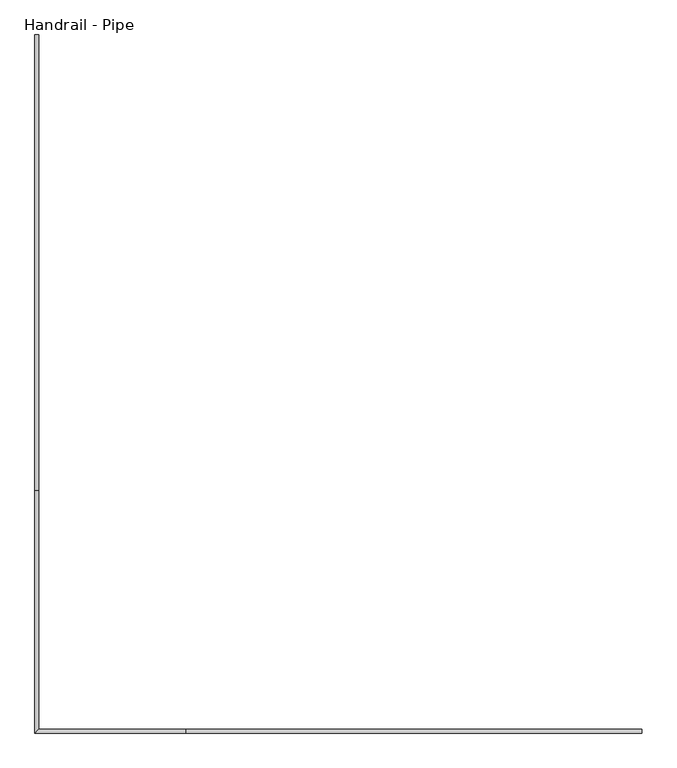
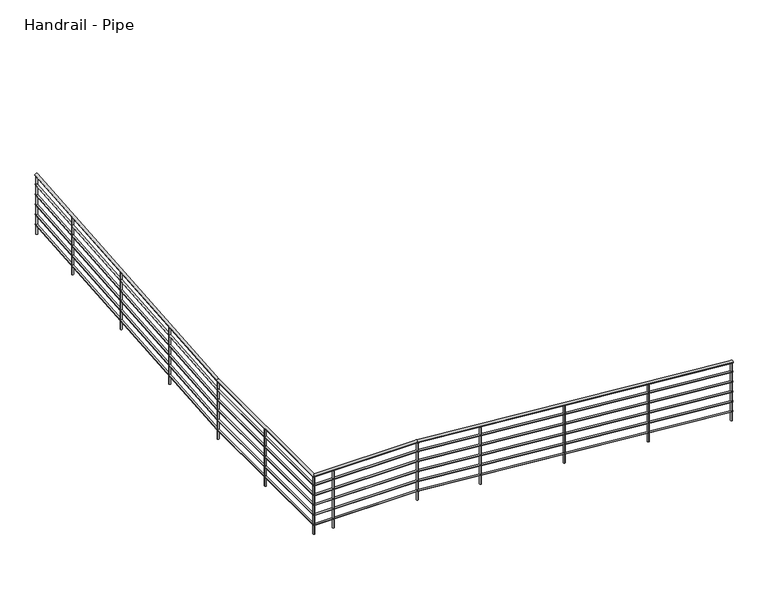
"""IFC4 building model written with IfcOpenShell, lengths in millimetres: railing geometry, Handrail - Pipe."""

from ifc_helpers import new_model, si_unit, point, frame, frame_2d, origin, place, context, project, spatial, circle_curve, ellipse_curve, trimmed, segment, composite_curve, outline, extrude, source, transform, mapped, element, save
from ifc_brep_helpers import plane_surface, cylinder_surface, advanced_brep


def handrail_pipe_77dd8e58(model_context):
    return source(origin(), model_context, "Body", "SolidModel", [
        advanced_brep(
        [(17900.9421922, -13890.6010164, 133.2839686), (17900.9421922, -13852.5010164, 133.2839686), (13328.1498155, -13890.6010164, 514.35), (13328.1498155, -13852.5010164, 514.35), (11811.2921922, -13890.6010164, 514.35), (11849.3921922, -13852.5010164, 514.35), (11811.2921922, -11462.6964124, 514.35), (11849.3921922, -11462.6964124, 514.35), (11811.2921922, -6891.4887891, 895.2839686), (11849.3921922, -6891.4887891, 895.2839686)],
        [
            (0, 1, ellipse_curve(frame((17900.9421922, -13871.5510164, 133.2839686), z_axis=(1.0, 0.0, 0.0), x_axis=(0.0, 0.0, -0.9999999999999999)), 19.1160314, 19.05)),
            (1, 0, ellipse_curve(frame((17900.9421922, -13871.5510164, 133.2839686), z_axis=(1.0, 0.0, 0.0), x_axis=(0.0, 0.0, -0.9999999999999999)), 19.1160314, 19.05)),
            (0, 2),
            (2, 3, ellipse_curve(frame((13328.1498155, -13871.5510164, 514.35), z_axis=(0.9991360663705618, 0.0, -0.0415586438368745), x_axis=(-0.041558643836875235, 0.0, -0.9991360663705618)), 19.0664722, 19.05)),
            (3, 1),
            (3, 2, ellipse_curve(frame((13328.1498155, -13871.5510164, 514.35), z_axis=(0.9991360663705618, 0.0, -0.0415586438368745), x_axis=(-0.041558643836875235, 0.0, -0.9991360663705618)), 19.0664722, 19.05)),
            (2, 4),
            (4, 5, ellipse_curve(frame((11830.3421922, -13871.5510164, 514.35), z_axis=(0.7071067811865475, -0.7071067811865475, 0.0), x_axis=(0.7071067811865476, 0.7071067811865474, 0.0)), 26.9407684, 19.05)),
            (5, 3),
            (5, 4, ellipse_curve(frame((11830.3421922, -13871.5510164, 514.35), z_axis=(0.7071067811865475, -0.7071067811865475, 0.0), x_axis=(0.7071067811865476, 0.7071067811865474, 0.0)), 26.9407684, 19.05)),
            (4, 6),
            (6, 7, ellipse_curve(frame((11830.3421922, -11462.6964124, 514.35), z_axis=(0.0, -0.9991360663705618, -0.041558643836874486), x_axis=(0.0, -0.04155864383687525, 0.9991360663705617)), 19.0664722, 19.05)),
            (7, 5),
            (7, 6, ellipse_curve(frame((11830.3421922, -11462.6964124, 514.35), z_axis=(0.0, -0.9991360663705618, -0.041558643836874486), x_axis=(0.0, -0.04155864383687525, 0.9991360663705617)), 19.0664722, 19.05)),
            (8, 9, ellipse_curve(frame((11830.3421922, -6891.4887891, 895.2839686), z_axis=(0.0, 1.0, 0.0), x_axis=(0.0, 0.0, -1.0)), 19.1160314, 19.05)),
            (9, 8, ellipse_curve(frame((11830.3421922, -6891.4887891, 895.2839686), z_axis=(0.0, 1.0, 0.0), x_axis=(0.0, 0.0, -1.0)), 19.1160314, 19.05)),
            (6, 8),
            (9, 7),
        ],
        [
            plane_surface(frame((17900.9421922, -13871.5510164, 152.4), z_axis=(1.0, 0.0, 0.0), x_axis=(0.0, -1.0, 0.0))),
            cylinder_surface(frame((17899.3601758, -13871.5510164, 133.4158033), z_axis=(0.9965457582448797, 0.0, -0.08304547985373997), x_axis=(0.0, 1.0, 0.0)), 19.05),
            cylinder_surface(frame((13328.9421922, -13871.5510164, 514.35), z_axis=(1.0, 0.0, 0.0), x_axis=(0.0, 1.0, 0.0)), 19.05),
            cylinder_surface(frame((11830.3421922, -13871.5510164, 514.35), z_axis=(0.0, -1.0, 0.0), x_axis=(1.0, 0.0, 0.0)), 19.05),
            plane_surface(frame((11830.3421922, -6891.4887891, 914.4), z_axis=(0.0, 1.0, 0.0), x_axis=(0.0, 0.0, 1.0))),
            cylinder_surface(frame((11830.3421922, -11461.9067727, 514.4158033), z_axis=(0.0, -0.9965457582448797, -0.08304547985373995), x_axis=(1.0, 0.0, 0.0)), 19.05),
        ],
        [
            (0, [[1, 2]]),
            (1, [[-1, 3, 4, 5]]),
            (1, [[-2, -5, 6, -3]]),
            (2, [[-4, 7, 8, 9]]),
            (2, [[-6, -9, 10, -7]]),
            (3, [[-8, 11, 12, 13]]),
            (3, [[-10, -13, 14, -11]]),
            (4, [[15, 16]]),
            (5, [[-12, 17, -16, 18]]),
            (5, [[-14, -18, -15, -17]]),
        ],
    ),
        advanced_brep(
        [(17900.9421922, -13884.2510164, -12.7440209), (17900.9421922, -13858.8510164, -12.7440209), (13328.413941, -13884.2510164, 368.3), (13328.413941, -13858.8510164, 368.3), (11817.6421922, -13884.2510164, 368.3), (11843.0421922, -13858.8510164, 368.3), (11817.6421922, -11462.9605379, 368.3), (11843.0421922, -11462.9605379, 368.3), (11817.6421922, -6891.4887891, 749.2559791), (11843.0421922, -6891.4887891, 749.2559791)],
        [
            (0, 1, ellipse_curve(frame((17900.9421922, -13871.5510164, -12.7440209), z_axis=(1.0, 0.0, 0.0), x_axis=(0.0, 0.0, -0.9999999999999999)), 12.7440209, 12.7)),
            (1, 0, ellipse_curve(frame((17900.9421922, -13871.5510164, -12.7440209), z_axis=(1.0, 0.0, 0.0), x_axis=(0.0, 0.0, -0.9999999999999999)), 12.7440209, 12.7)),
            (0, 2),
            (2, 3, ellipse_curve(frame((13328.413941, -13871.5510164, 368.3), z_axis=(0.9991360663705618, 0.0, -0.0415586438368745), x_axis=(-0.041558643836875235, 0.0, -0.9991360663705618)), 12.7109814, 12.7)),
            (3, 1),
            (3, 2, ellipse_curve(frame((13328.413941, -13871.5510164, 368.3), z_axis=(0.9991360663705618, 0.0, -0.0415586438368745), x_axis=(-0.041558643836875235, 0.0, -0.9991360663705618)), 12.7109814, 12.7)),
            (2, 4),
            (4, 5, ellipse_curve(frame((11830.3421922, -13871.5510164, 368.3), z_axis=(0.7071067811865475, -0.7071067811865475, 0.0), x_axis=(0.7071067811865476, 0.7071067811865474, 0.0)), 17.9605122, 12.7)),
            (5, 3),
            (5, 4, ellipse_curve(frame((11830.3421922, -13871.5510164, 368.3), z_axis=(0.7071067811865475, -0.7071067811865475, 0.0), x_axis=(0.7071067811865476, 0.7071067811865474, 0.0)), 17.9605122, 12.7)),
            (4, 6),
            (6, 7, ellipse_curve(frame((11830.3421922, -11462.9605379, 368.3), z_axis=(0.0, -0.9991360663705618, -0.041558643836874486), x_axis=(0.0, -0.04155864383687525, 0.9991360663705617)), 12.7109814, 12.7)),
            (7, 5),
            (7, 6, ellipse_curve(frame((11830.3421922, -11462.9605379, 368.3), z_axis=(0.0, -0.9991360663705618, -0.041558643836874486), x_axis=(0.0, -0.04155864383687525, 0.9991360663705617)), 12.7109814, 12.7)),
            (8, 9, ellipse_curve(frame((11830.3421922, -6891.4887891, 749.2559791), z_axis=(0.0, 1.0, 0.0), x_axis=(0.0, 0.0, -1.0)), 12.7440209, 12.7)),
            (9, 8, ellipse_curve(frame((11830.3421922, -6891.4887891, 749.2559791), z_axis=(0.0, 1.0, 0.0), x_axis=(0.0, 0.0, -1.0)), 12.7440209, 12.7)),
            (6, 8),
            (9, 7),
        ],
        [
            plane_surface(frame((17900.9421922, -13871.5510164, 0.0), z_axis=(1.0, 0.0, 0.0), x_axis=(0.0, -1.0, 0.0))),
            cylinder_surface(frame((17899.8875146, -13871.5510164, -12.6561311), z_axis=(0.9965457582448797, 0.0, -0.08304547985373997), x_axis=(0.0, 1.0, 0.0)), 12.7),
            cylinder_surface(frame((13328.9421922, -13871.5510164, 368.3), z_axis=(1.0, 0.0, 0.0), x_axis=(0.0, 1.0, 0.0)), 12.7),
            cylinder_surface(frame((11830.3421922, -13871.5510164, 368.3), z_axis=(0.0, -1.0, 0.0), x_axis=(1.0, 0.0, 0.0)), 12.7),
            plane_surface(frame((11830.3421922, -6891.4887891, 762.0), z_axis=(0.0, 1.0, 0.0), x_axis=(0.0, 0.0, 1.0))),
            cylinder_surface(frame((11830.3421922, -11462.4341115, 368.3438689), z_axis=(0.0, -0.9965457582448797, -0.08304547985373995), x_axis=(1.0, 0.0, 0.0)), 12.7),
        ],
        [
            (0, [[1, 2]]),
            (1, [[-1, 3, 4, 5]]),
            (1, [[-2, -5, 6, -3]]),
            (2, [[-4, 7, 8, 9]]),
            (2, [[-6, -9, 10, -7]]),
            (3, [[-8, 11, 12, 13]]),
            (3, [[-10, -13, 14, -11]]),
            (4, [[15, 16]]),
            (5, [[-12, 17, -16, 18]]),
            (5, [[-14, -18, -15, -17]]),
        ],
    ),
        advanced_brep(
        [(17900.9421922, -13884.2510164, -165.1440209), (17900.9421922, -13858.8510164, -165.1440209), (13328.413941, -13884.2510164, 215.9), (13328.413941, -13858.8510164, 215.9), (11817.6421922, -13884.2510164, 215.9), (11843.0421922, -13858.8510164, 215.9), (11817.6421922, -11462.9605379, 215.9), (11843.0421922, -11462.9605379, 215.9), (11817.6421922, -6891.4887891, 596.8559791), (11843.0421922, -6891.4887891, 596.8559791)],
        [
            (0, 1, ellipse_curve(frame((17900.9421922, -13871.5510164, -165.1440209), z_axis=(1.0, 0.0, 0.0), x_axis=(0.0, 0.0, -0.9999999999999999)), 12.7440209, 12.7)),
            (1, 0, ellipse_curve(frame((17900.9421922, -13871.5510164, -165.1440209), z_axis=(1.0, 0.0, 0.0), x_axis=(0.0, 0.0, -0.9999999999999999)), 12.7440209, 12.7)),
            (0, 2),
            (2, 3, ellipse_curve(frame((13328.413941, -13871.5510164, 215.9), z_axis=(0.9991360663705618, 0.0, -0.0415586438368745), x_axis=(-0.041558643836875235, 0.0, -0.9991360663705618)), 12.7109814, 12.7)),
            (3, 1),
            (3, 2, ellipse_curve(frame((13328.413941, -13871.5510164, 215.9), z_axis=(0.9991360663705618, 0.0, -0.0415586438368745), x_axis=(-0.041558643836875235, 0.0, -0.9991360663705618)), 12.7109814, 12.7)),
            (2, 4),
            (4, 5, ellipse_curve(frame((11830.3421922, -13871.5510164, 215.9), z_axis=(0.7071067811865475, -0.7071067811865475, 0.0), x_axis=(0.7071067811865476, 0.7071067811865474, 0.0)), 17.9605122, 12.7)),
            (5, 3),
            (5, 4, ellipse_curve(frame((11830.3421922, -13871.5510164, 215.9), z_axis=(0.7071067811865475, -0.7071067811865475, 0.0), x_axis=(0.7071067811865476, 0.7071067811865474, 0.0)), 17.9605122, 12.7)),
            (4, 6),
            (6, 7, ellipse_curve(frame((11830.3421922, -11462.9605379, 215.9), z_axis=(0.0, -0.9991360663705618, -0.041558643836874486), x_axis=(0.0, -0.04155864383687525, 0.9991360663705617)), 12.7109814, 12.7)),
            (7, 5),
            (7, 6, ellipse_curve(frame((11830.3421922, -11462.9605379, 215.9), z_axis=(0.0, -0.9991360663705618, -0.041558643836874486), x_axis=(0.0, -0.04155864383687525, 0.9991360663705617)), 12.7109814, 12.7)),
            (8, 9, ellipse_curve(frame((11830.3421922, -6891.4887891, 596.8559791), z_axis=(0.0, 1.0, 0.0), x_axis=(0.0, 0.0, -1.0)), 12.7440209, 12.7)),
            (9, 8, ellipse_curve(frame((11830.3421922, -6891.4887891, 596.8559791), z_axis=(0.0, 1.0, 0.0), x_axis=(0.0, 0.0, -1.0)), 12.7440209, 12.7)),
            (6, 8),
            (9, 7),
        ],
        [
            plane_surface(frame((17900.9421922, -13871.5510164, -152.4), z_axis=(1.0, 0.0, 0.0), x_axis=(0.0, -1.0, 0.0))),
            cylinder_surface(frame((17899.8875146, -13871.5510164, -165.0561311), z_axis=(0.9965457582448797, 0.0, -0.08304547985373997), x_axis=(0.0, 1.0, 0.0)), 12.7),
            cylinder_surface(frame((13328.9421922, -13871.5510164, 215.9), z_axis=(1.0, 0.0, 0.0), x_axis=(0.0, 1.0, 0.0)), 12.7),
            cylinder_surface(frame((11830.3421922, -13871.5510164, 215.9), z_axis=(0.0, -1.0, 0.0), x_axis=(1.0, 0.0, 0.0)), 12.7),
            plane_surface(frame((11830.3421922, -6891.4887891, 609.6), z_axis=(0.0, 1.0, 0.0), x_axis=(0.0, 0.0, 1.0))),
            cylinder_surface(frame((11830.3421922, -11462.4341115, 215.9438689), z_axis=(0.0, -0.9965457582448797, -0.08304547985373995), x_axis=(1.0, 0.0, 0.0)), 12.7),
        ],
        [
            (0, [[1, 2]]),
            (1, [[-1, 3, 4, 5]]),
            (1, [[-2, -5, 6, -3]]),
            (2, [[-4, 7, 8, 9]]),
            (2, [[-6, -9, 10, -7]]),
            (3, [[-8, 11, 12, 13]]),
            (3, [[-10, -13, 14, -11]]),
            (4, [[15, 16]]),
            (5, [[-12, 17, -16, 18]]),
            (5, [[-14, -18, -15, -17]]),
        ],
    ),
        advanced_brep(
        [(17900.9421922, -13884.2510164, -317.5440209), (17900.9421922, -13858.8510164, -317.5440209), (13328.413941, -13884.2510164, 63.5), (13328.413941, -13858.8510164, 63.5), (11817.6421922, -13884.2510164, 63.5), (11843.0421922, -13858.8510164, 63.5), (11817.6421922, -11462.9605379, 63.5), (11843.0421922, -11462.9605379, 63.5), (11817.6421922, -6891.4887891, 444.4559791), (11843.0421922, -6891.4887891, 444.4559791)],
        [
            (0, 1, ellipse_curve(frame((17900.9421922, -13871.5510164, -317.5440209), z_axis=(1.0, 0.0, 0.0), x_axis=(0.0, 0.0, -0.9999999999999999)), 12.7440209, 12.7)),
            (1, 0, ellipse_curve(frame((17900.9421922, -13871.5510164, -317.5440209), z_axis=(1.0, 0.0, 0.0), x_axis=(0.0, 0.0, -0.9999999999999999)), 12.7440209, 12.7)),
            (0, 2),
            (2, 3, ellipse_curve(frame((13328.413941, -13871.5510164, 63.5), z_axis=(0.9991360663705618, 0.0, -0.0415586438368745), x_axis=(-0.041558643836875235, 0.0, -0.9991360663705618)), 12.7109814, 12.7)),
            (3, 1),
            (3, 2, ellipse_curve(frame((13328.413941, -13871.5510164, 63.5), z_axis=(0.9991360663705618, 0.0, -0.0415586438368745), x_axis=(-0.041558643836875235, 0.0, -0.9991360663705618)), 12.7109814, 12.7)),
            (2, 4),
            (4, 5, ellipse_curve(frame((11830.3421922, -13871.5510164, 63.5), z_axis=(0.7071067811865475, -0.7071067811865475, 0.0), x_axis=(0.7071067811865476, 0.7071067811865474, 0.0)), 17.9605122, 12.7)),
            (5, 3),
            (5, 4, ellipse_curve(frame((11830.3421922, -13871.5510164, 63.5), z_axis=(0.7071067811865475, -0.7071067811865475, 0.0), x_axis=(0.7071067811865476, 0.7071067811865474, 0.0)), 17.9605122, 12.7)),
            (4, 6),
            (6, 7, ellipse_curve(frame((11830.3421922, -11462.9605379, 63.5), z_axis=(0.0, -0.9991360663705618, -0.0415586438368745), x_axis=(0.0, -0.04155864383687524, 0.9991360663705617)), 12.7109814, 12.7)),
            (7, 5),
            (7, 6, ellipse_curve(frame((11830.3421922, -11462.9605379, 63.5), z_axis=(0.0, -0.9991360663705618, -0.0415586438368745), x_axis=(0.0, -0.04155864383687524, 0.9991360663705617)), 12.7109814, 12.7)),
            (8, 9, ellipse_curve(frame((11830.3421922, -6891.4887891, 444.4559791), z_axis=(0.0, 1.0, 0.0), x_axis=(0.0, 0.0, -0.9999999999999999)), 12.7440209, 12.7)),
            (9, 8, ellipse_curve(frame((11830.3421922, -6891.4887891, 444.4559791), z_axis=(0.0, 1.0, 0.0), x_axis=(0.0, 0.0, -0.9999999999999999)), 12.7440209, 12.7)),
            (6, 8),
            (9, 7),
        ],
        [
            plane_surface(frame((17900.9421922, -13871.5510164, -304.8), z_axis=(1.0, 0.0, 0.0), x_axis=(0.0, -1.0, 0.0))),
            cylinder_surface(frame((17899.8875146, -13871.5510164, -317.4561311), z_axis=(0.9965457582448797, 0.0, -0.08304547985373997), x_axis=(0.0, 1.0, 0.0)), 12.7),
            cylinder_surface(frame((13328.9421922, -13871.5510164, 63.5), z_axis=(1.0, 0.0, 0.0), x_axis=(0.0, 1.0, 0.0)), 12.7),
            cylinder_surface(frame((11830.3421922, -13871.5510164, 63.5), z_axis=(0.0, -1.0, 0.0), x_axis=(1.0, 0.0, 0.0)), 12.7),
            plane_surface(frame((11830.3421922, -6891.4887891, 457.2), z_axis=(0.0, 1.0, 0.0), x_axis=(0.0, 0.0, 1.0))),
            cylinder_surface(frame((11830.3421922, -11462.4341115, 63.5438689), z_axis=(0.0, -0.9965457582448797, -0.08304547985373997), x_axis=(1.0, 0.0, 0.0)), 12.7),
        ],
        [
            (0, [[1, 2]]),
            (1, [[-1, 3, 4, 5]]),
            (1, [[-2, -5, 6, -3]]),
            (2, [[-4, 7, 8, 9]]),
            (2, [[-6, -9, 10, -7]]),
            (3, [[-8, 11, 12, 13]]),
            (3, [[-10, -13, 14, -11]]),
            (4, [[15, 16]]),
            (5, [[-12, 17, -16, 18]]),
            (5, [[-14, -18, -15, -17]]),
        ],
    ),
        advanced_brep(
        [(17900.9421922, -13884.2510164, -469.9440209), (17900.9421922, -13858.8510164, -469.9440209), (13328.413941, -13884.2510164, -88.9), (13328.413941, -13858.8510164, -88.9), (11817.6421922, -13884.2510164, -88.9), (11843.0421922, -13858.8510164, -88.9), (11817.6421922, -11462.9605379, -88.9), (11843.0421922, -11462.9605379, -88.9), (11817.6421922, -6891.4887891, 292.0559791), (11843.0421922, -6891.4887891, 292.0559791)],
        [
            (0, 1, ellipse_curve(frame((17900.9421922, -13871.5510164, -469.9440209), z_axis=(1.0, 0.0, 0.0), x_axis=(0.0, 0.0, -0.9999999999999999)), 12.7440209, 12.7)),
            (1, 0, ellipse_curve(frame((17900.9421922, -13871.5510164, -469.9440209), z_axis=(1.0, 0.0, 0.0), x_axis=(0.0, 0.0, -0.9999999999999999)), 12.7440209, 12.7)),
            (0, 2),
            (2, 3, ellipse_curve(frame((13328.413941, -13871.5510164, -88.9), z_axis=(0.9991360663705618, 0.0, -0.0415586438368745), x_axis=(-0.041558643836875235, 0.0, -0.9991360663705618)), 12.7109814, 12.7)),
            (3, 1),
            (3, 2, ellipse_curve(frame((13328.413941, -13871.5510164, -88.9), z_axis=(0.9991360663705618, 0.0, -0.0415586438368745), x_axis=(-0.041558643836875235, 0.0, -0.9991360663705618)), 12.7109814, 12.7)),
            (2, 4),
            (4, 5, ellipse_curve(frame((11830.3421922, -13871.5510164, -88.9), z_axis=(0.7071067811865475, -0.7071067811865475, 0.0), x_axis=(0.7071067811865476, 0.7071067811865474, 0.0)), 17.9605122, 12.7)),
            (5, 3),
            (5, 4, ellipse_curve(frame((11830.3421922, -13871.5510164, -88.9), z_axis=(0.7071067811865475, -0.7071067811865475, 0.0), x_axis=(0.7071067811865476, 0.7071067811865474, 0.0)), 17.9605122, 12.7)),
            (4, 6),
            (6, 7, ellipse_curve(frame((11830.3421922, -11462.9605379, -88.9), z_axis=(0.0, -0.9991360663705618, -0.0415586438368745), x_axis=(0.0, -0.04155864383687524, 0.9991360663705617)), 12.7109814, 12.7)),
            (7, 5),
            (7, 6, ellipse_curve(frame((11830.3421922, -11462.9605379, -88.9), z_axis=(0.0, -0.9991360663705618, -0.0415586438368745), x_axis=(0.0, -0.04155864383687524, 0.9991360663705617)), 12.7109814, 12.7)),
            (8, 9, ellipse_curve(frame((11830.3421922, -6891.4887891, 292.0559791), z_axis=(0.0, 1.0, 0.0), x_axis=(0.0, 0.0, -0.9999999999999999)), 12.7440209, 12.7)),
            (9, 8, ellipse_curve(frame((11830.3421922, -6891.4887891, 292.0559791), z_axis=(0.0, 1.0, 0.0), x_axis=(0.0, 0.0, -0.9999999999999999)), 12.7440209, 12.7)),
            (6, 8),
            (9, 7),
        ],
        [
            plane_surface(frame((17900.9421922, -13871.5510164, -457.2), z_axis=(1.0, 0.0, 0.0), x_axis=(0.0, -1.0, 0.0))),
            cylinder_surface(frame((17899.8875146, -13871.5510164, -469.8561311), z_axis=(0.9965457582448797, 0.0, -0.08304547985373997), x_axis=(0.0, 1.0, 0.0)), 12.7),
            cylinder_surface(frame((13328.9421922, -13871.5510164, -88.9), z_axis=(1.0, 0.0, 0.0), x_axis=(0.0, 1.0, 0.0)), 12.7),
            cylinder_surface(frame((11830.3421922, -13871.5510164, -88.9), z_axis=(0.0, -1.0, 0.0), x_axis=(1.0, 0.0, 0.0)), 12.7),
            plane_surface(frame((11830.3421922, -6891.4887891, 304.8), z_axis=(0.0, 1.0, 0.0), x_axis=(0.0, 0.0, 1.0))),
            cylinder_surface(frame((11830.3421922, -11462.4341115, -88.8561311), z_axis=(0.0, -0.9965457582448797, -0.08304547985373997), x_axis=(1.0, 0.0, 0.0)), 12.7),
        ],
        [
            (0, [[1, 2]]),
            (1, [[-1, 3, 4, 5]]),
            (1, [[-2, -5, 6, -3]]),
            (2, [[-4, 7, 8, 9]]),
            (2, [[-6, -9, 10, -7]]),
            (3, [[-8, 11, 12, 13]]),
            (3, [[-10, -13, 14, -11]]),
            (4, [[15, 16]]),
            (5, [[-12, 17, -16, 18]]),
            (5, [[-14, -18, -15, -17]]),
        ],
    ),
        advanced_brep(
        [(17900.9421922, -13884.2510164, -622.3440209), (17900.9421922, -13858.8510164, -622.3440209), (13328.413941, -13884.2510164, -241.3), (13328.413941, -13858.8510164, -241.3), (11817.6421922, -13884.2510164, -241.3), (11843.0421922, -13858.8510164, -241.3), (11817.6421922, -11462.9605379, -241.3), (11843.0421922, -11462.9605379, -241.3), (11817.6421922, -6891.4887891, 139.6559791), (11843.0421922, -6891.4887891, 139.6559791)],
        [
            (0, 1, ellipse_curve(frame((17900.9421922, -13871.5510164, -622.3440209), z_axis=(1.0, 0.0, 0.0), x_axis=(0.0, 0.0, -0.9999999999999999)), 12.7440209, 12.7)),
            (1, 0, ellipse_curve(frame((17900.9421922, -13871.5510164, -622.3440209), z_axis=(1.0, 0.0, 0.0), x_axis=(0.0, 0.0, -0.9999999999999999)), 12.7440209, 12.7)),
            (0, 2),
            (2, 3, ellipse_curve(frame((13328.413941, -13871.5510164, -241.3), z_axis=(0.9991360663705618, 0.0, -0.0415586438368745), x_axis=(-0.041558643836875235, 0.0, -0.9991360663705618)), 12.7109814, 12.7)),
            (3, 1),
            (3, 2, ellipse_curve(frame((13328.413941, -13871.5510164, -241.3), z_axis=(0.9991360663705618, 0.0, -0.0415586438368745), x_axis=(-0.041558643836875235, 0.0, -0.9991360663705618)), 12.7109814, 12.7)),
            (2, 4),
            (4, 5, ellipse_curve(frame((11830.3421922, -13871.5510164, -241.3), z_axis=(0.7071067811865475, -0.7071067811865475, 0.0), x_axis=(0.7071067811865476, 0.7071067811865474, 0.0)), 17.9605122, 12.7)),
            (5, 3),
            (5, 4, ellipse_curve(frame((11830.3421922, -13871.5510164, -241.3), z_axis=(0.7071067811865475, -0.7071067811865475, 0.0), x_axis=(0.7071067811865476, 0.7071067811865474, 0.0)), 17.9605122, 12.7)),
            (4, 6),
            (6, 7, ellipse_curve(frame((11830.3421922, -11462.9605379, -241.3), z_axis=(0.0, -0.9991360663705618, -0.0415586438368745), x_axis=(0.0, -0.04155864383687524, 0.9991360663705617)), 12.7109814, 12.7)),
            (7, 5),
            (7, 6, ellipse_curve(frame((11830.3421922, -11462.9605379, -241.3), z_axis=(0.0, -0.9991360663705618, -0.0415586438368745), x_axis=(0.0, -0.04155864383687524, 0.9991360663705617)), 12.7109814, 12.7)),
            (8, 9, ellipse_curve(frame((11830.3421922, -6891.4887891, 139.6559791), z_axis=(0.0, 1.0, 0.0), x_axis=(0.0, 0.0, -0.9999999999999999)), 12.7440209, 12.7)),
            (9, 8, ellipse_curve(frame((11830.3421922, -6891.4887891, 139.6559791), z_axis=(0.0, 1.0, 0.0), x_axis=(0.0, 0.0, -0.9999999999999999)), 12.7440209, 12.7)),
            (6, 8),
            (9, 7),
        ],
        [
            plane_surface(frame((17900.9421922, -13871.5510164, -609.6), z_axis=(1.0, 0.0, 0.0), x_axis=(0.0, -1.0, 0.0))),
            cylinder_surface(frame((17899.8875146, -13871.5510164, -622.2561311), z_axis=(0.9965457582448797, 0.0, -0.08304547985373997), x_axis=(0.0, 1.0, 0.0)), 12.7),
            cylinder_surface(frame((13328.9421922, -13871.5510164, -241.3), z_axis=(1.0, 0.0, 0.0), x_axis=(0.0, 1.0, 0.0)), 12.7),
            cylinder_surface(frame((11830.3421922, -13871.5510164, -241.3), z_axis=(0.0, -1.0, 0.0), x_axis=(1.0, 0.0, 0.0)), 12.7),
            plane_surface(frame((11830.3421922, -6891.4887891, 152.4), z_axis=(0.0, 1.0, 0.0), x_axis=(0.0, 0.0, 1.0))),
            cylinder_surface(frame((11830.3421922, -11462.4341115, -241.2561311), z_axis=(0.0, -0.9965457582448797, -0.08304547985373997), x_axis=(1.0, 0.0, 0.0)), 12.7),
        ],
        [
            (0, [[1, 2]]),
            (1, [[-1, 3, 4, 5]]),
            (1, [[-2, -5, 6, -3]]),
            (2, [[-4, 7, 8, 9]]),
            (2, [[-6, -9, 10, -7]]),
            (3, [[-8, 11, 12, 13]]),
            (3, [[-10, -13, 14, -11]]),
            (4, [[15, 16]]),
            (5, [[-12, 17, -16, 18]]),
            (5, [[-14, -18, -15, -17]]),
        ],
    ),
        advanced_brep(
        [(11843.0421922, -7805.8887891, 799.9679372), (11843.0421922, -7805.8887891, -76.2), (11817.6421922, -7805.8887891, -76.2), (11817.6421922, -7805.8887891, 799.9679372)],
        [
            (0, 1),
            (1, 2, ellipse_curve(frame((11830.3421922, -7805.8887891, -76.2), z_axis=(0.0, -0.08304547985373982, 0.9965457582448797), x_axis=(0.0, 0.9965457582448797, 0.08304547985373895)), 12.7440209, 12.7)),
            (2, 3),
            (3, 0, ellipse_curve(frame((11830.3421922, -7805.8887891, 799.9679372), z_axis=(0.0, 0.08304547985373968, -0.9965457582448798), x_axis=(0.0, 0.9965457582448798, 0.08304547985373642)), 12.7440209, 12.7)),
            (0, 3, ellipse_curve(frame((11830.3421922, -7805.8887891, 799.9679372), z_axis=(0.0, 0.08304547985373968, -0.9965457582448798), x_axis=(0.0, 0.9965457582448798, 0.08304547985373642)), 12.7440209, 12.7)),
            (2, 1, ellipse_curve(frame((11830.3421922, -7805.8887891, -76.2), z_axis=(0.0, -0.08304547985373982, 0.9965457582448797), x_axis=(0.0, 0.9965457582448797, 0.08304547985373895)), 12.7440209, 12.7)),
        ],
        [
            cylinder_surface(frame((11830.3421922, -7805.8887891, -304.8), z_axis=(0.0, 0.0, 1.0), x_axis=(-1.0, 0.0, 0.0)), 12.7),
            plane_surface(frame((11804.9421922, -7780.4887891, 802.0846039), z_axis=(0.0, -0.08304547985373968, 0.9965457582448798), x_axis=(1.0, 0.0, 0.0))),
            plane_surface(frame((11804.9421922, -7831.2887891, -78.3166667), z_axis=(0.0, 0.08304547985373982, -0.9965457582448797), x_axis=(1.0, 0.0, 0.0))),
        ],
        [
            (0, [[1, 2, 3, 4]]),
            (0, [[-1, 5, -3, 6]]),
            (1, [[-4, -5]]),
            (2, [[-2, -6]]),
        ],
    ),
        advanced_brep(
        [(11843.0421922, -9025.0887891, 698.3679372), (11843.0421922, -9025.0887891, -177.8), (11817.6421922, -9025.0887891, -177.8), (11817.6421922, -9025.0887891, 698.3679372)],
        [
            (0, 1),
            (1, 2, ellipse_curve(frame((11830.3421922, -9025.0887891, -177.8), z_axis=(0.0, -0.08304547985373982, 0.9965457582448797), x_axis=(0.0, 0.9965457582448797, 0.08304547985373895)), 12.7440209, 12.7)),
            (2, 3),
            (3, 0, ellipse_curve(frame((11830.3421922, -9025.0887891, 698.3679372), z_axis=(0.0, 0.08304547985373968, -0.9965457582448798), x_axis=(0.0, 0.9965457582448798, 0.08304547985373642)), 12.7440209, 12.7)),
            (0, 3, ellipse_curve(frame((11830.3421922, -9025.0887891, 698.3679372), z_axis=(0.0, 0.08304547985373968, -0.9965457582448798), x_axis=(0.0, 0.9965457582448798, 0.08304547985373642)), 12.7440209, 12.7)),
            (2, 1, ellipse_curve(frame((11830.3421922, -9025.0887891, -177.8), z_axis=(0.0, -0.08304547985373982, 0.9965457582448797), x_axis=(0.0, 0.9965457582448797, 0.08304547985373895)), 12.7440209, 12.7)),
        ],
        [
            cylinder_surface(frame((11830.3421922, -9025.0887891, -406.4), z_axis=(0.0, 0.0, 1.0), x_axis=(-1.0, 0.0, 0.0)), 12.7),
            plane_surface(frame((11804.9421922, -8999.6887891, 700.4846039), z_axis=(0.0, -0.08304547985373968, 0.9965457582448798), x_axis=(1.0, 0.0, 0.0))),
            plane_surface(frame((11804.9421922, -9050.4887891, -179.9166667), z_axis=(0.0, 0.08304547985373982, -0.9965457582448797), x_axis=(1.0, 0.0, 0.0))),
        ],
        [
            (0, [[1, 2, 3, 4]]),
            (0, [[-1, 5, -3, 6]]),
            (1, [[-4, -5]]),
            (2, [[-2, -6]]),
        ],
    ),
        advanced_brep(
        [(11843.0421922, -10244.2887891, 596.7679372), (11843.0421922, -10244.2887891, -279.4), (11817.6421922, -10244.2887891, -279.4), (11817.6421922, -10244.2887891, 596.7679372)],
        [
            (0, 1),
            (1, 2, ellipse_curve(frame((11830.3421922, -10244.2887891, -279.4), z_axis=(0.0, -0.08304547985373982, 0.9965457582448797), x_axis=(0.0, 0.9965457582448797, 0.08304547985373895)), 12.7440209, 12.7)),
            (2, 3),
            (3, 0, ellipse_curve(frame((11830.3421922, -10244.2887891, 596.7679372), z_axis=(0.0, 0.08304547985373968, -0.9965457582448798), x_axis=(0.0, 0.9965457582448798, 0.08304547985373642)), 12.7440209, 12.7)),
            (0, 3, ellipse_curve(frame((11830.3421922, -10244.2887891, 596.7679372), z_axis=(0.0, 0.08304547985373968, -0.9965457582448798), x_axis=(0.0, 0.9965457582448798, 0.08304547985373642)), 12.7440209, 12.7)),
            (2, 1, ellipse_curve(frame((11830.3421922, -10244.2887891, -279.4), z_axis=(0.0, -0.08304547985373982, 0.9965457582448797), x_axis=(0.0, 0.9965457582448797, 0.08304547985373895)), 12.7440209, 12.7)),
        ],
        [
            cylinder_surface(frame((11830.3421922, -10244.2887891, -508.0), z_axis=(0.0, 0.0, 1.0), x_axis=(-1.0, 0.0, 0.0)), 12.7),
            plane_surface(frame((11804.9421922, -10218.8887891, 598.8846039), z_axis=(0.0, -0.08304547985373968, 0.9965457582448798), x_axis=(1.0, 0.0, 0.0))),
            plane_surface(frame((11804.9421922, -10269.6887891, -281.5166667), z_axis=(0.0, 0.08304547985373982, -0.9965457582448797), x_axis=(1.0, 0.0, 0.0))),
        ],
        [
            (0, [[1, 2, 3, 4]]),
            (0, [[-1, 5, -3, 6]]),
            (1, [[-4, -5]]),
            (2, [[-2, -6]]),
        ],
    ),
        extrude(outline(composite_curve([segment(trimmed(circle_curve(frame_2d((11830.3421922, -12652.3510164)), 12.7), [point((11817.6421922, -12652.3510164))], [point((11843.0421922, -12652.3510164))], False, "CARTESIAN"), True, "CONTINUOUS"), segment(trimmed(circle_curve(frame_2d((11830.3421922, -12652.3510164)), 12.7), [point((11843.0421922, -12652.3510164))], [point((11817.6421922, -12652.3510164))], False, "CARTESIAN"), True, "CONTINUOUS")], self_intersect=False)), frame((0.0, 0.0, -381.0), z_axis=(0.0, 0.0, 1.0), x_axis=(1.0, 0.0, 0.0)), (0.0, 0.0, 1.0), 876.3),
        extrude(outline(composite_curve([segment(trimmed(circle_curve(frame_2d((12109.7421922, -13871.5510164)), 12.7), [point((12109.7421922, -13884.2510164))], [point((12109.7421922, -13858.8510164))], False, "CARTESIAN"), True, "CONTINUOUS"), segment(trimmed(circle_curve(frame_2d((12109.7421922, -13871.5510164)), 12.7), [point((12109.7421922, -13858.8510164))], [point((12109.7421922, -13884.2510164))], False, "CARTESIAN"), True, "CONTINUOUS")], self_intersect=False)), frame((0.0, 0.0, -381.0), z_axis=(0.0, 0.0, 1.0), x_axis=(1.0, 0.0, 0.0)), (0.0, 0.0, 1.0), 876.3),
        advanced_brep(
        [(14243.3421922, -13858.8510164, 418.9679372), (14243.3421922, -13858.8510164, -457.2), (14243.3421922, -13884.2510164, -457.2), (14243.3421922, -13884.2510164, 418.9679372)],
        [
            (0, 1),
            (1, 2, ellipse_curve(frame((14243.3421922, -13871.5510164, -457.2), z_axis=(0.08304547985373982, 0.0, 0.9965457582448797), x_axis=(-0.9965457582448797, 0.0, 0.08304547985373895)), 12.7440209, 12.7)),
            (2, 3),
            (3, 0, ellipse_curve(frame((14243.3421922, -13871.5510164, 418.9679372), z_axis=(-0.08304547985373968, 0.0, -0.9965457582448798), x_axis=(-0.9965457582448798, 0.0, 0.08304547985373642)), 12.7440209, 12.7)),
            (0, 3, ellipse_curve(frame((14243.3421922, -13871.5510164, 418.9679372), z_axis=(-0.08304547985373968, 0.0, -0.9965457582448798), x_axis=(-0.9965457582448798, 0.0, 0.08304547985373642)), 12.7440209, 12.7)),
            (2, 1, ellipse_curve(frame((14243.3421922, -13871.5510164, -457.2), z_axis=(0.08304547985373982, 0.0, 0.9965457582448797), x_axis=(-0.9965457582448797, 0.0, 0.08304547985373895)), 12.7440209, 12.7)),
        ],
        [
            cylinder_surface(frame((14243.3421922, -13871.5510164, -685.8), z_axis=(0.0, 0.0, 1.0), x_axis=(0.0, -1.0, 0.0)), 12.7),
            plane_surface(frame((14217.9421922, -13896.9510164, 421.0846039), z_axis=(0.08304547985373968, 0.0, 0.9965457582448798), x_axis=(0.0, 1.0, 0.0))),
            plane_surface(frame((14268.7421922, -13896.9510164, -459.3166667), z_axis=(-0.08304547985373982, 0.0, -0.9965457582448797), x_axis=(0.0, 1.0, 0.0))),
        ],
        [
            (0, [[1, 2, 3, 4]]),
            (0, [[-1, 5, -3, 6]]),
            (1, [[-4, -5]]),
            (2, [[-2, -6]]),
        ],
    ),
        advanced_brep(
        [(15462.5421922, -13858.8510164, 317.3679372), (15462.5421922, -13858.8510164, -558.8), (15462.5421922, -13884.2510164, -558.8), (15462.5421922, -13884.2510164, 317.3679372)],
        [
            (0, 1),
            (1, 2, ellipse_curve(frame((15462.5421922, -13871.5510164, -558.8), z_axis=(0.08304547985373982, 0.0, 0.9965457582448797), x_axis=(-0.9965457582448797, 0.0, 0.08304547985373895)), 12.7440209, 12.7)),
            (2, 3),
            (3, 0, ellipse_curve(frame((15462.5421922, -13871.5510164, 317.3679372), z_axis=(-0.08304547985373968, 0.0, -0.9965457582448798), x_axis=(-0.9965457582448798, 0.0, 0.08304547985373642)), 12.7440209, 12.7)),
            (0, 3, ellipse_curve(frame((15462.5421922, -13871.5510164, 317.3679372), z_axis=(-0.08304547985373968, 0.0, -0.9965457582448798), x_axis=(-0.9965457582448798, 0.0, 0.08304547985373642)), 12.7440209, 12.7)),
            (2, 1, ellipse_curve(frame((15462.5421922, -13871.5510164, -558.8), z_axis=(0.08304547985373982, 0.0, 0.9965457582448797), x_axis=(-0.9965457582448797, 0.0, 0.08304547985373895)), 12.7440209, 12.7)),
        ],
        [
            cylinder_surface(frame((15462.5421922, -13871.5510164, -787.4), z_axis=(0.0, 0.0, 1.0), x_axis=(0.0, -1.0, 0.0)), 12.7),
            plane_surface(frame((15437.1421922, -13896.9510164, 319.4846039), z_axis=(0.08304547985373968, 0.0, 0.9965457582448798), x_axis=(0.0, 1.0, 0.0))),
            plane_surface(frame((15487.9421922, -13896.9510164, -560.9166667), z_axis=(-0.08304547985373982, 0.0, -0.9965457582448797), x_axis=(0.0, 1.0, 0.0))),
        ],
        [
            (0, [[1, 2, 3, 4]]),
            (0, [[-1, 5, -3, 6]]),
            (1, [[-4, -5]]),
            (2, [[-2, -6]]),
        ],
    ),
        advanced_brep(
        [(16681.7421922, -13858.8510164, 215.7679372), (16681.7421922, -13858.8510164, -660.4), (16681.7421922, -13884.2510164, -660.4), (16681.7421922, -13884.2510164, 215.7679372)],
        [
            (0, 1),
            (1, 2, ellipse_curve(frame((16681.7421922, -13871.5510164, -660.4), z_axis=(0.08304547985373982, 0.0, 0.9965457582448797), x_axis=(-0.9965457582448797, 0.0, 0.08304547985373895)), 12.7440209, 12.7)),
            (2, 3),
            (3, 0, ellipse_curve(frame((16681.7421922, -13871.5510164, 215.7679372), z_axis=(-0.08304547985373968, 0.0, -0.9965457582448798), x_axis=(-0.9965457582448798, 0.0, 0.08304547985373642)), 12.7440209, 12.7)),
            (0, 3, ellipse_curve(frame((16681.7421922, -13871.5510164, 215.7679372), z_axis=(-0.08304547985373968, 0.0, -0.9965457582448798), x_axis=(-0.9965457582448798, 0.0, 0.08304547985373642)), 12.7440209, 12.7)),
            (2, 1, ellipse_curve(frame((16681.7421922, -13871.5510164, -660.4), z_axis=(0.08304547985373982, 0.0, 0.9965457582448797), x_axis=(-0.9965457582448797, 0.0, 0.08304547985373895)), 12.7440209, 12.7)),
        ],
        [
            cylinder_surface(frame((16681.7421922, -13871.5510164, -889.0), z_axis=(0.0, 0.0, 1.0), x_axis=(0.0, -1.0, 0.0)), 12.7),
            plane_surface(frame((16656.3421922, -13896.9510164, 217.8846039), z_axis=(0.08304547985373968, 0.0, 0.9965457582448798), x_axis=(0.0, 1.0, 0.0))),
            plane_surface(frame((16707.1421922, -13896.9510164, -662.5166667), z_axis=(-0.08304547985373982, 0.0, -0.9965457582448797), x_axis=(0.0, 1.0, 0.0))),
        ],
        [
            (0, [[1, 2, 3, 4]]),
            (0, [[-1, 5, -3, 6]]),
            (1, [[-4, -5]]),
            (2, [[-2, -6]]),
        ],
    ),
        extrude(outline(composite_curve([segment(trimmed(circle_curve(frame_2d((11830.3421922, -11463.4887891)), 12.7), [point((11817.6421922, -11463.4887891))], [point((11843.0421922, -11463.4887891))], False, "CARTESIAN"), True, "CONTINUOUS"), segment(trimmed(circle_curve(frame_2d((11830.3421922, -11463.4887891)), 12.7), [point((11843.0421922, -11463.4887891))], [point((11817.6421922, -11463.4887891))], False, "CARTESIAN"), True, "CONTINUOUS")], self_intersect=False)), frame((0.0, 0.0, -381.0), z_axis=(0.0, 0.0, 1.0), x_axis=(1.0, 0.0, 0.0)), (0.0, 0.0, 1.0), 876.3),
        extrude(outline(composite_curve([segment(trimmed(circle_curve(frame_2d((11830.3421922, -13871.5510164)), 12.7), [point((11830.3421922, -13884.2510164))], [point((11830.3421922, -13858.8510164))], False, "CARTESIAN"), True, "CONTINUOUS"), segment(trimmed(circle_curve(frame_2d((11830.3421922, -13871.5510164)), 12.7), [point((11830.3421922, -13858.8510164))], [point((11830.3421922, -13884.2510164))], False, "CARTESIAN"), True, "CONTINUOUS")], self_intersect=False)), frame((0.0, 0.0, -381.0), z_axis=(0.0, 0.0, 1.0), x_axis=(1.0, 0.0, 0.0)), (0.0, 0.0, 1.0), 876.3),
        advanced_brep(
        [(13328.9421922, -13858.8510164, 495.1679372), (13328.9421922, -13858.8510164, -381.0), (13328.9421922, -13884.2510164, -381.0), (13328.9421922, -13884.2510164, 495.1679372)],
        [
            (0, 1),
            (1, 2, ellipse_curve(frame((13328.9421922, -13871.5510164, -381.0), z_axis=(0.08304547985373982, 0.0, 0.9965457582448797), x_axis=(-0.9965457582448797, 0.0, 0.08304547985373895)), 12.7440209, 12.7)),
            (2, 3),
            (3, 0, ellipse_curve(frame((13328.9421922, -13871.5510164, 495.1679372), z_axis=(-0.08304547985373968, 0.0, -0.9965457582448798), x_axis=(-0.9965457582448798, 0.0, 0.08304547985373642)), 12.7440209, 12.7)),
            (0, 3, ellipse_curve(frame((13328.9421922, -13871.5510164, 495.1679372), z_axis=(-0.08304547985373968, 0.0, -0.9965457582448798), x_axis=(-0.9965457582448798, 0.0, 0.08304547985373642)), 12.7440209, 12.7)),
            (2, 1, ellipse_curve(frame((13328.9421922, -13871.5510164, -381.0), z_axis=(0.08304547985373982, 0.0, 0.9965457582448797), x_axis=(-0.9965457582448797, 0.0, 0.08304547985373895)), 12.7440209, 12.7)),
        ],
        [
            cylinder_surface(frame((13328.9421922, -13871.5510164, -609.6), z_axis=(0.0, 0.0, 1.0), x_axis=(0.0, -1.0, 0.0)), 12.7),
            plane_surface(frame((13303.5421922, -13896.9510164, 497.2846039), z_axis=(0.08304547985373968, 0.0, 0.9965457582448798), x_axis=(0.0, 1.0, 0.0))),
            plane_surface(frame((13354.3421922, -13896.9510164, -383.1166667), z_axis=(-0.08304547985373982, 0.0, -0.9965457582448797), x_axis=(0.0, 1.0, 0.0))),
        ],
        [
            (0, [[1, 2, 3, 4]]),
            (0, [[-1, 5, -3, 6]]),
            (1, [[-4, -5]]),
            (2, [[-2, -6]]),
        ],
    ),
        advanced_brep(
        [(11843.0421922, -6904.1887891, 875.1096039), (11843.0421922, -6904.1887891, -1.0583333), (11817.6421922, -6904.1887891, -1.0583333), (11817.6421922, -6904.1887891, 875.1096039)],
        [
            (0, 1),
            (1, 2, ellipse_curve(frame((11830.3421922, -6904.1887891, -1.0583333), z_axis=(0.0, -0.08304547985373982, 0.9965457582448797), x_axis=(0.0, 0.9965457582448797, 0.08304547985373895)), 12.7440209, 12.7)),
            (2, 3),
            (3, 0, ellipse_curve(frame((11830.3421922, -6904.1887891, 875.1096039), z_axis=(0.0, 0.08304547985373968, -0.9965457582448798), x_axis=(0.0, 0.9965457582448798, 0.08304547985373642)), 12.7440209, 12.7)),
            (0, 3, ellipse_curve(frame((11830.3421922, -6904.1887891, 875.1096039), z_axis=(0.0, 0.08304547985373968, -0.9965457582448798), x_axis=(0.0, 0.9965457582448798, 0.08304547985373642)), 12.7440209, 12.7)),
            (2, 1, ellipse_curve(frame((11830.3421922, -6904.1887891, -1.0583333), z_axis=(0.0, -0.08304547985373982, 0.9965457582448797), x_axis=(0.0, 0.9965457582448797, 0.08304547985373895)), 12.7440209, 12.7)),
        ],
        [
            cylinder_surface(frame((11830.3421922, -6904.1887891, -229.6583333), z_axis=(0.0, 0.0, 1.0), x_axis=(-1.0, 0.0, 0.0)), 12.7),
            plane_surface(frame((11804.9421922, -6878.7887891, 877.2262705), z_axis=(0.0, -0.08304547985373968, 0.9965457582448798), x_axis=(1.0, 0.0, 0.0))),
            plane_surface(frame((11804.9421922, -6929.5887891, -3.175), z_axis=(0.0, 0.08304547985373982, -0.9965457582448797), x_axis=(1.0, 0.0, 0.0))),
        ],
        [
            (0, [[1, 2, 3, 4]]),
            (0, [[-1, 5, -3, 6]]),
            (1, [[-4, -5]]),
            (2, [[-2, -6]]),
        ],
    ),
        advanced_brep(
        [(17888.2421922, -13858.8510164, 115.2262705), (17888.2421922, -13858.8510164, -760.9416667), (17888.2421922, -13884.2510164, -760.9416667), (17888.2421922, -13884.2510164, 115.2262705)],
        [
            (0, 1),
            (1, 2, ellipse_curve(frame((17888.2421922, -13871.5510164, -760.9416667), z_axis=(0.08304547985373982, 0.0, 0.9965457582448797), x_axis=(-0.9965457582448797, 0.0, 0.08304547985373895)), 12.7440209, 12.7)),
            (2, 3),
            (3, 0, ellipse_curve(frame((17888.2421922, -13871.5510164, 115.2262705), z_axis=(-0.08304547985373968, 0.0, -0.9965457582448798), x_axis=(-0.9965457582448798, 0.0, 0.08304547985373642)), 12.7440209, 12.7)),
            (0, 3, ellipse_curve(frame((17888.2421922, -13871.5510164, 115.2262705), z_axis=(-0.08304547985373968, 0.0, -0.9965457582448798), x_axis=(-0.9965457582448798, 0.0, 0.08304547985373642)), 12.7440209, 12.7)),
            (2, 1, ellipse_curve(frame((17888.2421922, -13871.5510164, -760.9416667), z_axis=(0.08304547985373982, 0.0, 0.9965457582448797), x_axis=(-0.9965457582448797, 0.0, 0.08304547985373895)), 12.7440209, 12.7)),
        ],
        [
            cylinder_surface(frame((17888.2421922, -13871.5510164, -989.5416667), z_axis=(0.0, 0.0, 1.0), x_axis=(0.0, -1.0, 0.0)), 12.7),
            plane_surface(frame((17862.8421922, -13896.9510164, 117.3429372), z_axis=(0.08304547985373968, 0.0, 0.9965457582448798), x_axis=(0.0, 1.0, 0.0))),
            plane_surface(frame((17913.6421922, -13896.9510164, -763.0583333), z_axis=(-0.08304547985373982, 0.0, -0.9965457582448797), x_axis=(0.0, 1.0, 0.0))),
        ],
        [
            (0, [[1, 2, 3, 4]]),
            (0, [[-1, 5, -3, 6]]),
            (1, [[-4, -5]]),
            (2, [[-2, -6]]),
        ],
    ),
    ])


if __name__ == "__main__":
    model = new_model("IFC4")
    model_context = context("Model", 3, world=origin())
    ifc_project = project(units=[si_unit("LENGTHUNIT", "METRE", prefix="MILLI")], contexts=[model_context])
    site = spatial("IfcSite", under=ifc_project)
    building = spatial("IfcBuilding", under=site)
    placement = place(None, origin())
    handrail_pipe_shape = handrail_pipe_77dd8e58(model_context)
    element("IfcRailing", 1, ObjectType="Handrail - Pipe", at=placement, inside=building, context=model_context, shape_type="MappedRepresentation", body=[
        mapped(handrail_pipe_shape, transform((0.0, 0.0, 0.0), x_axis=(1.0, 0.0, 0.0), y_axis=(0.0, 1.0, 0.0), z_axis=(0.0, 0.0, 1.0))),
    ])
    save(model, "model.ifc")
